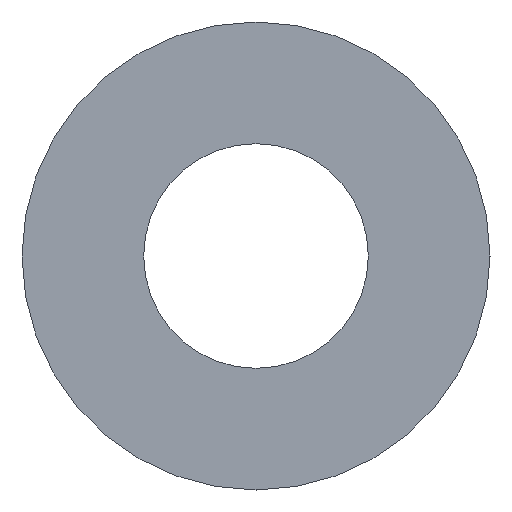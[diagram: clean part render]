
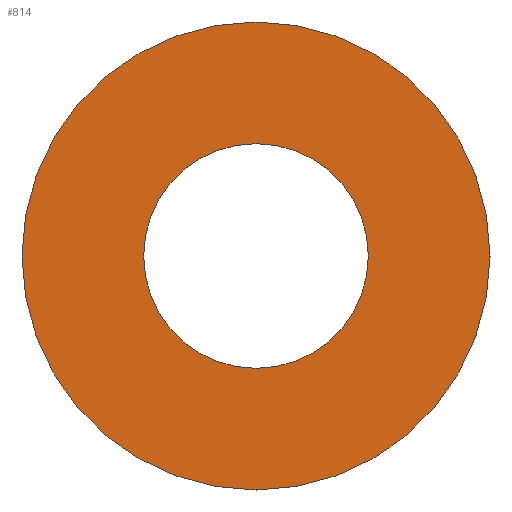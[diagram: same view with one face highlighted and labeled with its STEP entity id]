
A CAD part, front view. The second image highlights one B-rep face of the part: STEP entity #814.
In plain terms, the highlighted planar face has unit normal (0, -1, 0).
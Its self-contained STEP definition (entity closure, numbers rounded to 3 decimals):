
#146 = ORIENTED_EDGE ( 'NONE', *, *, #497, .F. ) ;
#149 = CARTESIAN_POINT ( 'NONE',  ( 0., -14., -12. ) ) ;
#268 = DIRECTION ( 'NONE',  ( 0., -1., 0. ) ) ;
#269 = AXIS2_PLACEMENT_3D ( 'NONE', #704, #268, #2265 ) ;
#270 = DIRECTION ( 'NONE',  ( 0., 0., -1. ) ) ;
#369 = CIRCLE ( 'NONE', #269, 25. ) ;
#375 = ORIENTED_EDGE ( 'NONE', *, *, #2139, .T. ) ;
#427 = EDGE_LOOP ( 'NONE', ( #1859, #375 ) ) ;
#497 = EDGE_CURVE ( 'NONE', #759, #2522, #2219, .T. ) ;
#505 = CARTESIAN_POINT ( 'NONE',  ( 0., -14., 0. ) ) ;
#619 = DIRECTION ( 'NONE',  ( 0., 0., -1. ) ) ;
#704 = CARTESIAN_POINT ( 'NONE',  ( 0., -14., 0. ) ) ;
#734 = DIRECTION ( 'NONE',  ( 0., -1., 0. ) ) ;
#759 = VERTEX_POINT ( 'NONE', #149 ) ;
#814 = ADVANCED_FACE ( 'NONE', ( #1739, #2091 ), #1924, .F. ) ;
#884 = CARTESIAN_POINT ( 'NONE',  ( 0., -14., 0. ) ) ;
#945 = CARTESIAN_POINT ( 'NONE',  ( 0., -14., 0. ) ) ;
#1094 = VERTEX_POINT ( 'NONE', #2326 ) ;
#1111 = EDGE_LOOP ( 'NONE', ( #146, #1411 ) ) ;
#1114 = DIRECTION ( 'NONE',  ( 0., -1., 0. ) ) ;
#1125 = CARTESIAN_POINT ( 'NONE',  ( 0., -14., 25. ) ) ;
#1313 = EDGE_CURVE ( 'NONE', #2522, #759, #2610, .T. ) ;
#1323 = AXIS2_PLACEMENT_3D ( 'NONE', #884, #1114, #619 ) ;
#1411 = ORIENTED_EDGE ( 'NONE', *, *, #1313, .F. ) ;
#1468 = DIRECTION ( 'NONE',  ( 0., 0., 1. ) ) ;
#1485 = CARTESIAN_POINT ( 'NONE',  ( 0., -14., 12. ) ) ;
#1544 = CIRCLE ( 'NONE', #2171, 25. ) ;
#1739 = FACE_BOUND ( 'NONE', #1111, .T. ) ;
#1859 = ORIENTED_EDGE ( 'NONE', *, *, #2875, .T. ) ;
#1924 = PLANE ( 'NONE',  #2129 ) ;
#1932 = DIRECTION ( 'NONE',  ( 0., 1., 0. ) ) ;
#2040 = VERTEX_POINT ( 'NONE', #1125 ) ;
#2063 = DIRECTION ( 'NONE',  ( 0., -1., 0. ) ) ;
#2091 = FACE_OUTER_BOUND ( 'NONE', #427, .T. ) ;
#2129 = AXIS2_PLACEMENT_3D ( 'NONE', #1485, #1932, #1468 ) ;
#2139 = EDGE_CURVE ( 'NONE', #2040, #1094, #1544, .T. ) ;
#2171 = AXIS2_PLACEMENT_3D ( 'NONE', #505, #2063, #2730 ) ;
#2219 = CIRCLE ( 'NONE', #2558, 12. ) ;
#2265 = DIRECTION ( 'NONE',  ( 0., 0., -1. ) ) ;
#2326 = CARTESIAN_POINT ( 'NONE',  ( 0., -14., -25. ) ) ;
#2488 = CARTESIAN_POINT ( 'NONE',  ( 0., -14., 12. ) ) ;
#2522 = VERTEX_POINT ( 'NONE', #2488 ) ;
#2558 = AXIS2_PLACEMENT_3D ( 'NONE', #945, #734, #270 ) ;
#2610 = CIRCLE ( 'NONE', #1323, 12. ) ;
#2730 = DIRECTION ( 'NONE',  ( 0., 0., -1. ) ) ;
#2875 = EDGE_CURVE ( 'NONE', #1094, #2040, #369, .T. ) ;
